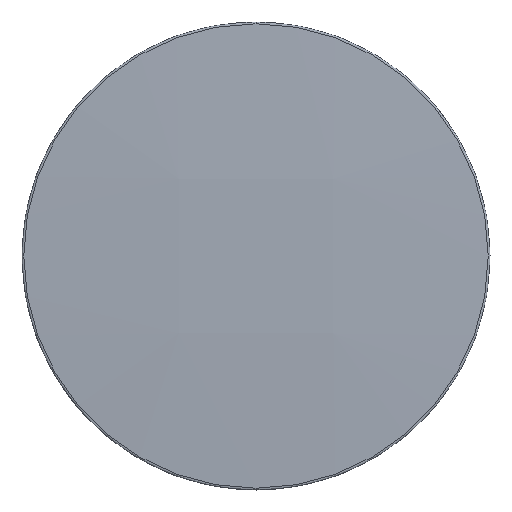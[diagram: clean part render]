
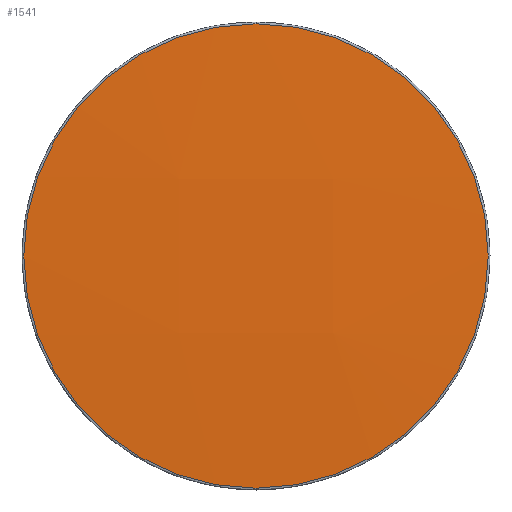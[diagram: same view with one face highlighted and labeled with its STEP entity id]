
A CAD part, front view. The second image highlights one B-rep face of the part: STEP entity #1541.
In plain terms, the highlighted free-form (B-spline) face has degree [3, 3] with [4, 4] control points.
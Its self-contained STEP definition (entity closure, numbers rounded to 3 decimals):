
#1 = DIRECTION ( 'NONE',  ( 0., 0., 1. ) ) ;
#29 = CARTESIAN_POINT ( 'NONE',  ( 0., -88.989, 356.5 ) ) ;
#111 = CARTESIAN_POINT ( 'NONE',  ( 126.544, -89.891, 398.127 ) ) ;
#143 = CARTESIAN_POINT ( 'NONE',  ( 42.393, -93.969, 314.125 ) ) ;
#230 = AXIS2_PLACEMENT_3D ( 'NONE', #929, #637, #299 ) ;
#288 = AXIS2_PLACEMENT_3D ( 'NONE', #29, #3167, #1 ) ;
#299 = DIRECTION ( 'NONE',  ( 0., 0., 1. ) ) ;
#435 = CARTESIAN_POINT ( 'NONE',  ( -126.01, -89.905, 314.125 ) ) ;
#448 = CARTESIAN_POINT ( 'NONE',  ( -41.793, -89.941, 482.031 ) ) ;
#523 = CIRCLE ( 'NONE', #288, 124.039 ) ;
#637 = DIRECTION ( 'NONE',  ( 0., -1., 0. ) ) ;
#733 = VERTEX_POINT ( 'NONE', #1770 ) ;
#795 = CARTESIAN_POINT ( 'NONE',  ( -41.858, -93.99, 398.127 ) ) ;
#929 = CARTESIAN_POINT ( 'NONE',  ( 0., -88.989, 356.5 ) ) ;
#981 = ORIENTED_EDGE ( 'NONE', *, *, #2070, .T. ) ;
#1051 = CARTESIAN_POINT ( 'NONE',  ( 126.543, -89.879, 314.125 ) ) ;
#1267 = ORIENTED_EDGE ( 'NONE', *, *, #1799, .T. ) ;
#1541 = ADVANCED_FACE ( 'NONE', ( #1660 ), #3640, .T. ) ;
#1660 = FACE_OUTER_BOUND ( 'NONE', #2567, .T. ) ;
#1770 = CARTESIAN_POINT ( 'NONE',  ( 0., -88.989, 480.539 ) ) ;
#1799 = EDGE_CURVE ( 'NONE', #2170, #733, #1852, .T. ) ;
#1852 = CIRCLE ( 'NONE', #230, 124.039 ) ;
#2043 = CARTESIAN_POINT ( 'NONE',  ( -41.858, -93.977, 314.125 ) ) ;
#2070 = EDGE_CURVE ( 'NONE', #733, #2170, #523, .T. ) ;
#2170 = VERTEX_POINT ( 'NONE', #4088 ) ;
#2329 = CARTESIAN_POINT ( 'NONE',  ( -125.813, -85.838, 230.221 ) ) ;
#2345 = CARTESIAN_POINT ( 'NONE',  ( 42.393, -93.981, 398.127 ) ) ;
#2567 = EDGE_LOOP ( 'NONE', ( #981, #1267 ) ) ;
#2669 = CARTESIAN_POINT ( 'NONE',  ( -125.814, -85.875, 482.031 ) ) ;
#3004 = CARTESIAN_POINT ( 'NONE',  ( 126.348, -85.849, 482.031 ) ) ;
#3167 = DIRECTION ( 'NONE',  ( 0., -1., 0. ) ) ;
#3259 = CARTESIAN_POINT ( 'NONE',  ( 42.327, -89.932, 482.031 ) ) ;
#3622 = CARTESIAN_POINT ( 'NONE',  ( 126.346, -85.813, 230.221 ) ) ;
#3635 = CARTESIAN_POINT ( 'NONE',  ( 42.326, -89.896, 230.221 ) ) ;
#3640 =( BOUNDED_SURFACE ( )  B_SPLINE_SURFACE ( 3, 3, ( 
 ( #3622, #3635, #3934, #2329 ),
 ( #1051, #143, #2043, #435 ),
 ( #111, #2345, #795, #3907 ),
 ( #3004, #3259, #448, #2669 ) ),
 .UNSPECIFIED., .F., .F., .T. ) 
 B_SPLINE_SURFACE_WITH_KNOTS ( ( 4, 4 ),
 ( 4, 4 ),
 ( 0., 1. ),
 ( 0., 1. ),
 .UNSPECIFIED. ) 
 GEOMETRIC_REPRESENTATION_ITEM ( )  RATIONAL_B_SPLINE_SURFACE ( (
 ( 1., 0.999, 0.999, 1.),
 ( 0.999, 0.998, 0.998, 0.999),
 ( 0.999, 0.998, 0.998, 0.999),
 ( 1., 0.999, 0.999, 1.) ) ) 
 REPRESENTATION_ITEM ( '' )  SURFACE ( )  );
#3907 = CARTESIAN_POINT ( 'NONE',  ( -126.01, -89.917, 398.127 ) ) ;
#3934 = CARTESIAN_POINT ( 'NONE',  ( -41.792, -89.905, 230.221 ) ) ;
#4088 = CARTESIAN_POINT ( 'NONE',  ( 0., -88.989, 232.461 ) ) ;
